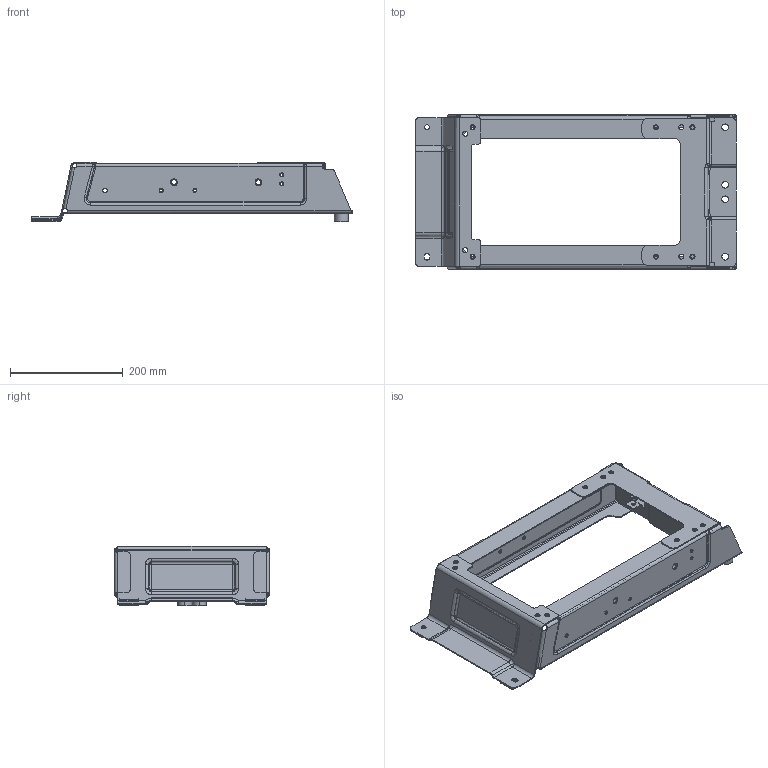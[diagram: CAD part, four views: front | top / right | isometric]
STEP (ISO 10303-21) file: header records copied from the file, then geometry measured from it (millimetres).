
FILE_DESCRIPTION(('CATIA V5 STEP Exchange'),'2;1');
FILE_NAME('F:\福田A6\1-数据\6-冻结数据\第九批\设变\静电导线设变\SHT0016014-宽车主驾驶底部支架焊接总成\SHT0016014-宽车主驾驶底部支架焊接总成\SHT0016014.stp','2024-10-30T12:55:31+00:00',('none'),('none'),'CATIA Version 5 Release 20 GA (IN-10)','CATIA V5 STEP AP203','none');
FILE_SCHEMA(('CONFIG_CONTROL_DESIGN'));
Length unit declared in the file: millimetre
Products named in the file (1): SHT0016014
Bounding box: 569.84 x 275 x 105.5 mm (x, y, z)
Volume: 534645.9 mm3; surface area: 534895.7 mm2
Topology: 20 solids, 20 shells, 1243 faces, 3400 edges, 2167 vertices
Faces by surface type: cylinder 473, plane 326, bspline 186, cone 148, torus 54, sphere 48, extrusion 6, revolution 2
Entity records: 43213 total; most frequent: CARTESIAN_POINT 15179, ORIENTED_EDGE 6712, DIRECTION 4072, EDGE_CURVE 3356, VERTEX_POINT 2167, AXIS2_PLACEMENT_3D 2019, EDGE_LOOP 1387, ADVANCED_FACE 1243
